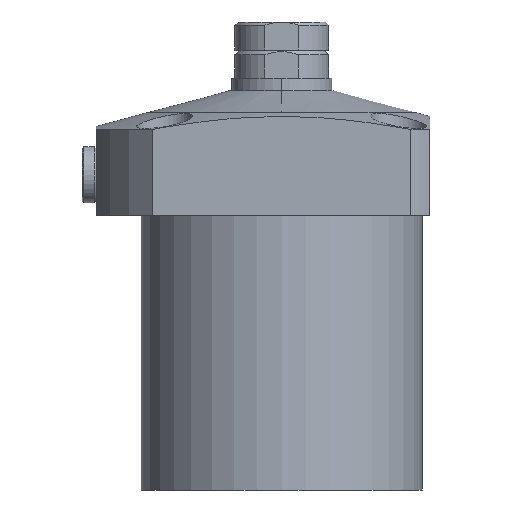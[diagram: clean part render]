
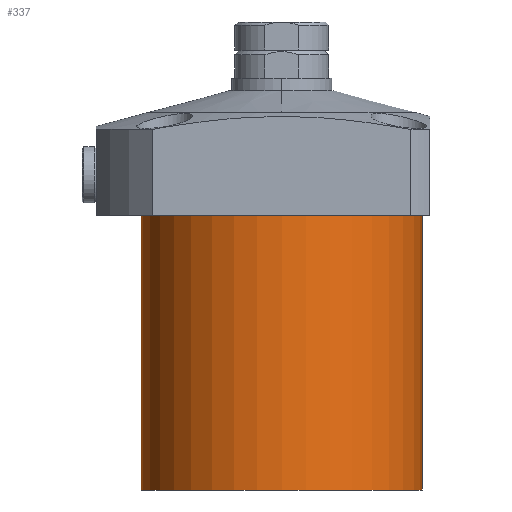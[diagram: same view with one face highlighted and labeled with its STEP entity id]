
A CAD part, front view. The second image highlights one B-rep face of the part: STEP entity #337.
In plain terms, the highlighted cylindrical face has radius 45 mm (diameter 90 mm), a partial arc.
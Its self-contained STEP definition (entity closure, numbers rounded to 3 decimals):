
#30 = DIRECTION ( 'NONE',  ( 1., 0., 0. ) ) ;
#34 = CARTESIAN_POINT ( 'NONE',  ( 0., 0., 0. ) ) ;
#302 = EDGE_CURVE ( 'NONE', #3491, #1629, #3614, .T. ) ;
#333 = VECTOR ( 'NONE', #2551, 1000. ) ;
#337 = ADVANCED_FACE ( 'NONE', ( #3425 ), #998, .T. ) ;
#445 = DIRECTION ( 'NONE',  ( 0., 0., -1. ) ) ;
#529 = CARTESIAN_POINT ( 'NONE',  ( 45., 0., 0. ) ) ;
#607 = CARTESIAN_POINT ( 'NONE',  ( 0., 0., -88. ) ) ;
#782 = CARTESIAN_POINT ( 'NONE',  ( -45., 0., -88. ) ) ;
#998 = CYLINDRICAL_SURFACE ( 'NONE', #3188, 45. ) ;
#1083 = CARTESIAN_POINT ( 'NONE',  ( 0., 0., -88. ) ) ;
#1371 = DIRECTION ( 'NONE',  ( 1., 0., 0. ) ) ;
#1419 = VERTEX_POINT ( 'NONE', #3699 ) ;
#1488 = DIRECTION ( 'NONE',  ( 1., 0., 0. ) ) ;
#1629 = VERTEX_POINT ( 'NONE', #529 ) ;
#1666 = AXIS2_PLACEMENT_3D ( 'NONE', #34, #445, #30 ) ;
#1877 = CIRCLE ( 'NONE', #1666, 45. ) ;
#1920 = VERTEX_POINT ( 'NONE', #2761 ) ;
#1958 = VECTOR ( 'NONE', #3072, 1000. ) ;
#2492 = LINE ( 'NONE', #782, #333 ) ;
#2551 = DIRECTION ( 'NONE',  ( 0., 0., 1. ) ) ;
#2660 = CARTESIAN_POINT ( 'NONE',  ( 45., 0., -88. ) ) ;
#2761 = CARTESIAN_POINT ( 'NONE',  ( -45., 0., 0. ) ) ;
#2783 = ORIENTED_EDGE ( 'NONE', *, *, #3571, .F. ) ;
#2843 = EDGE_LOOP ( 'NONE', ( #2783, #3569, #2887, #3015 ) ) ;
#2886 = EDGE_CURVE ( 'NONE', #1629, #1920, #1877, .T. ) ;
#2887 = ORIENTED_EDGE ( 'NONE', *, *, #302, .T. ) ;
#2910 = AXIS2_PLACEMENT_3D ( 'NONE', #1083, #3137, #1371 ) ;
#3015 = ORIENTED_EDGE ( 'NONE', *, *, #2886, .T. ) ;
#3072 = DIRECTION ( 'NONE',  ( 0., 0., 1. ) ) ;
#3082 = DIRECTION ( 'NONE',  ( 0., 0., 1. ) ) ;
#3137 = DIRECTION ( 'NONE',  ( 0., 0., -1. ) ) ;
#3188 = AXIS2_PLACEMENT_3D ( 'NONE', #607, #3082, #1488 ) ;
#3261 = CIRCLE ( 'NONE', #2910, 45. ) ;
#3425 = FACE_OUTER_BOUND ( 'NONE', #2843, .T. ) ;
#3491 = VERTEX_POINT ( 'NONE', #3552 ) ;
#3552 = CARTESIAN_POINT ( 'NONE',  ( 45., 0., -88. ) ) ;
#3569 = ORIENTED_EDGE ( 'NONE', *, *, #3625, .F. ) ;
#3571 = EDGE_CURVE ( 'NONE', #1419, #1920, #2492, .T. ) ;
#3614 = LINE ( 'NONE', #2660, #1958 ) ;
#3625 = EDGE_CURVE ( 'NONE', #3491, #1419, #3261, .T. ) ;
#3699 = CARTESIAN_POINT ( 'NONE',  ( -45., 0., -88. ) ) ;
